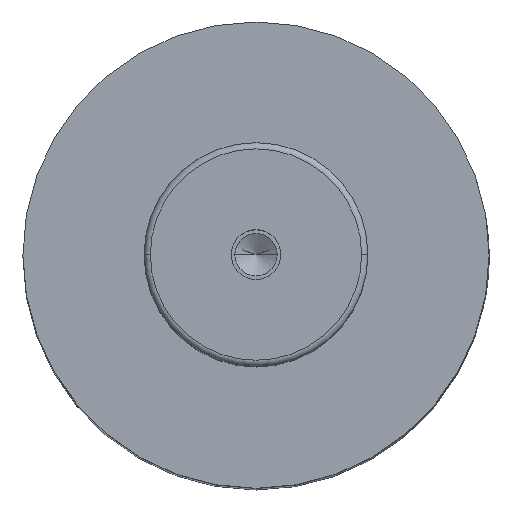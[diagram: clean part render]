
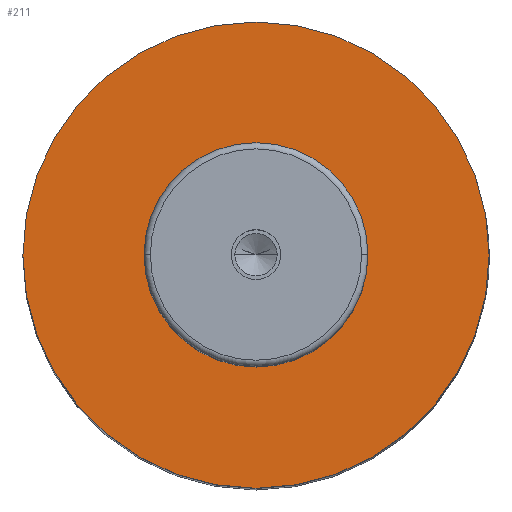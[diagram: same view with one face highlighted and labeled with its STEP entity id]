
A CAD part, top view. The second image highlights one B-rep face of the part: STEP entity #211.
In plain terms, the highlighted planar face has unit normal (0, 0, 1).
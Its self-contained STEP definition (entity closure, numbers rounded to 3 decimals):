
#109=PLANE('',#1266);
#138=FACE_BOUND('',#359,.T.);
#139=FACE_BOUND('',#360,.T.);
#211=ADVANCED_FACE('',(#138,#139),#109,.T.);
#359=EDGE_LOOP('',(#571,#572));
#360=EDGE_LOOP('',(#573,#574));
#451=CIRCLE('',#1260,18.);
#452=CIRCLE('',#1262,18.);
#453=CIRCLE('',#1264,37.5);
#454=CIRCLE('',#1265,37.5);
#571=ORIENTED_EDGE('',*,*,#970,.F.);
#572=ORIENTED_EDGE('',*,*,#971,.F.);
#573=ORIENTED_EDGE('',*,*,#969,.T.);
#574=ORIENTED_EDGE('',*,*,#967,.T.);
#856=VERTEX_POINT('',#1837);
#857=VERTEX_POINT('',#1839);
#858=VERTEX_POINT('',#1845);
#859=VERTEX_POINT('',#1846);
#967=EDGE_CURVE('',#857,#856,#451,.T.);
#969=EDGE_CURVE('',#856,#857,#452,.T.);
#970=EDGE_CURVE('',#858,#859,#453,.T.);
#971=EDGE_CURVE('',#859,#858,#454,.T.);
#1260=AXIS2_PLACEMENT_3D('',#1838,#1456,#1457);
#1262=AXIS2_PLACEMENT_3D('',#1842,#1461,#1462);
#1264=AXIS2_PLACEMENT_3D('',#1844,#1465,#1466);
#1265=AXIS2_PLACEMENT_3D('',#1847,#1467,#1468);
#1266=AXIS2_PLACEMENT_3D('',#1848,#1469,#1470);
#1456=DIRECTION('',(0.,0.,-1.));
#1457=DIRECTION('',(0.,1.,0.));
#1461=DIRECTION('',(0.,0.,-1.));
#1462=DIRECTION('',(0.,-1.,0.));
#1465=DIRECTION('',(0.,0.,-1.));
#1466=DIRECTION('',(0.,1.,0.));
#1467=DIRECTION('',(0.,0.,-1.));
#1468=DIRECTION('',(0.,-1.,0.));
#1469=DIRECTION('',(0.,0.,1.));
#1470=DIRECTION('',(0.,-1.,0.));
#1837=CARTESIAN_POINT('',(-18.,0.,157.));
#1838=CARTESIAN_POINT('',(0.,0.,157.));
#1839=CARTESIAN_POINT('',(18.,0.,157.));
#1842=CARTESIAN_POINT('',(0.,0.,157.));
#1844=CARTESIAN_POINT('',(0.,0.,157.));
#1845=CARTESIAN_POINT('',(37.5,0.,157.));
#1846=CARTESIAN_POINT('',(-37.5,0.,157.));
#1847=CARTESIAN_POINT('',(0.,0.,157.));
#1848=CARTESIAN_POINT('',(0.,0.,157.));
